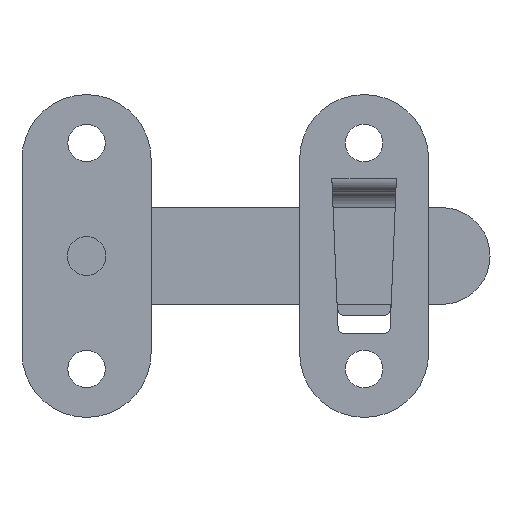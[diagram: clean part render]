
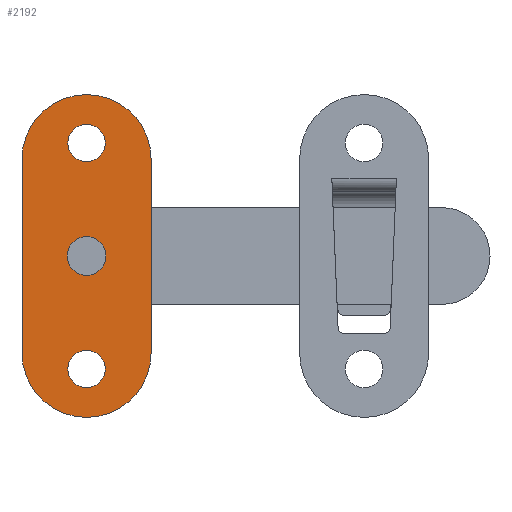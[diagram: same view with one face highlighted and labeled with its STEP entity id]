
A CAD part, front view. The second image highlights one B-rep face of the part: STEP entity #2192.
In plain terms, the highlighted planar face has unit normal (0, -1, 0).
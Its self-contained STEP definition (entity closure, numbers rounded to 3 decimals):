
#54=LINE('',#3489,#185);
#59=LINE('',#3503,#190);
#185=VECTOR('',#2687,30.);
#190=VECTOR('',#2700,30.);
#319=PLANE('',#2342);
#451=FACE_BOUND('',#631,.T.);
#452=FACE_BOUND('',#632,.T.);
#453=FACE_BOUND('',#633,.T.);
#490=FACE_OUTER_BOUND('',#630,.T.);
#630=EDGE_LOOP('',(#1558,#1559,#1560,#1561));
#631=EDGE_LOOP('',(#1562));
#632=EDGE_LOOP('',(#1563));
#633=EDGE_LOOP('',(#1564));
#783=CIRCLE('',#2324,2.9);
#786=CIRCLE('',#2329,2.9);
#788=CIRCLE('',#2332,3.);
#789=CIRCLE('',#2335,10.);
#791=CIRCLE('',#2339,10.);
#976=VERTEX_POINT('',#3471);
#979=VERTEX_POINT('',#3479);
#981=VERTEX_POINT('',#3484);
#982=VERTEX_POINT('',#3487);
#983=VERTEX_POINT('',#3488);
#986=VERTEX_POINT('',#3496);
#988=VERTEX_POINT('',#3502);
#1201=EDGE_CURVE('',#976,#976,#783,.T.);
#1204=EDGE_CURVE('',#979,#979,#786,.T.);
#1206=EDGE_CURVE('',#981,#981,#788,.T.);
#1207=EDGE_CURVE('',#982,#983,#54,.T.);
#1211=EDGE_CURVE('',#986,#982,#789,.T.);
#1214=EDGE_CURVE('',#988,#986,#59,.T.);
#1217=EDGE_CURVE('',#983,#988,#791,.T.);
#1558=ORIENTED_EDGE('',*,*,#1217,.F.);
#1559=ORIENTED_EDGE('',*,*,#1207,.F.);
#1560=ORIENTED_EDGE('',*,*,#1211,.F.);
#1561=ORIENTED_EDGE('',*,*,#1214,.F.);
#1562=ORIENTED_EDGE('',*,*,#1201,.T.);
#1563=ORIENTED_EDGE('',*,*,#1204,.T.);
#1564=ORIENTED_EDGE('',*,*,#1206,.T.);
#2192=ADVANCED_FACE('',(#490,#451,#452,#453),#319,.T.);
#2324=AXIS2_PLACEMENT_3D('',#3472,#2667,#2668);
#2329=AXIS2_PLACEMENT_3D('',#3480,#2677,#2678);
#2332=AXIS2_PLACEMENT_3D('',#3485,#2683,#2684);
#2335=AXIS2_PLACEMENT_3D('',#3497,#2693,#2694);
#2339=AXIS2_PLACEMENT_3D('',#3508,#2705,#2706);
#2342=AXIS2_PLACEMENT_3D('',#3511,#2711,#2712);
#2667=DIRECTION('center_axis',(0.,1.,0.));
#2668=DIRECTION('ref_axis',(1.,0.,0.));
#2677=DIRECTION('center_axis',(0.,1.,0.));
#2678=DIRECTION('ref_axis',(1.,0.,0.));
#2683=DIRECTION('center_axis',(0.,1.,0.));
#2684=DIRECTION('ref_axis',(1.,0.,0.));
#2687=DIRECTION('',(0.,0.,1.));
#2693=DIRECTION('center_axis',(0.,1.,0.));
#2694=DIRECTION('ref_axis',(1.,0.,0.));
#2700=DIRECTION('',(0.,0.,-1.));
#2705=DIRECTION('center_axis',(0.,1.,0.));
#2706=DIRECTION('ref_axis',(0.,0.,1.));
#2711=DIRECTION('center_axis',(0.,-1.,0.));
#2712=DIRECTION('ref_axis',(0.,0.,-1.));
#3471=CARTESIAN_POINT('',(-2.9,0.,-17.5));
#3472=CARTESIAN_POINT('Origin',(0.,0.,-17.5));
#3479=CARTESIAN_POINT('',(-2.9,0.,17.5));
#3480=CARTESIAN_POINT('Origin',(0.,0.,17.5));
#3484=CARTESIAN_POINT('',(-3.,0.,0.));
#3485=CARTESIAN_POINT('Origin',(0.,0.,0.));
#3487=CARTESIAN_POINT('',(-10.,0.,-15.));
#3488=CARTESIAN_POINT('',(-10.,0.,15.));
#3489=CARTESIAN_POINT('',(-10.,0.,-15.));
#3496=CARTESIAN_POINT('',(10.,0.,-15.));
#3497=CARTESIAN_POINT('Origin',(0.,0.,-15.));
#3502=CARTESIAN_POINT('',(10.,0.,15.));
#3503=CARTESIAN_POINT('',(10.,0.,15.));
#3508=CARTESIAN_POINT('Origin',(0.,0.,15.));
#3511=CARTESIAN_POINT('Origin',(0.,0.,0.));
